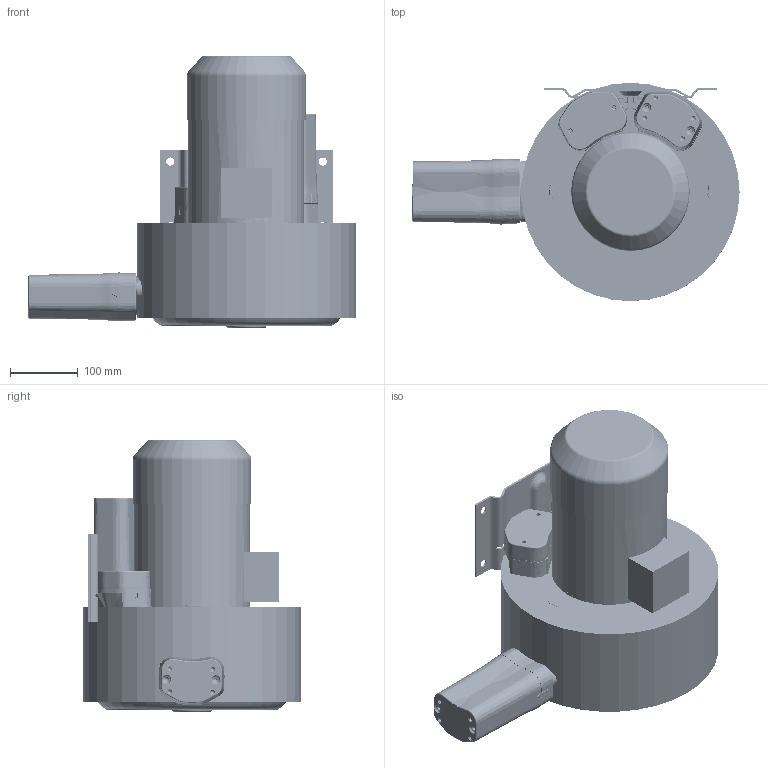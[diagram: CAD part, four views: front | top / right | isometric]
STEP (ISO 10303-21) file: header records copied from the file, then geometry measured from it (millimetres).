
FILE_DESCRIPTION((''),'2;1');
FILE_NAME('GHBH003342R4-3D','2017-06-16T',('Administrator'),(''),'CREO PARAMETRIC BY PTC INC, 2016260','CREO PARAMETRIC BY PTC INC, 2016260','');
FILE_SCHEMA(('AUTOMOTIVE_DESIGN { 1 0 10303 214 1 1 1 1 }'));
Length unit declared in the file: millimetre
Products named in the file (1): GHBH003342R4-3D
Bounding box: 482.56 x 322 x 401.25 mm (x, y, z)
Volume: 18737773.2 mm3; surface area: 1611405.4 mm2
Topology: 2 solids, 16 shells, 9299 faces, 22315 edges, 13073 vertices
Faces by surface type: bspline 2566, cylinder 2461, plane 1401, torus 1364, cone 1209, sphere 290, extrusion 8
Entity records: 433656 total; most frequent: CARTESIAN_POINT 240942, ORIENTED_EDGE 44520, DIRECTION 34864, EDGE_CURVE 22266, AXIS2_PLACEMENT_3D 14761, VERTEX_POINT 13073, EDGE_LOOP 9535, FACE_OUTER_BOUND 9299
